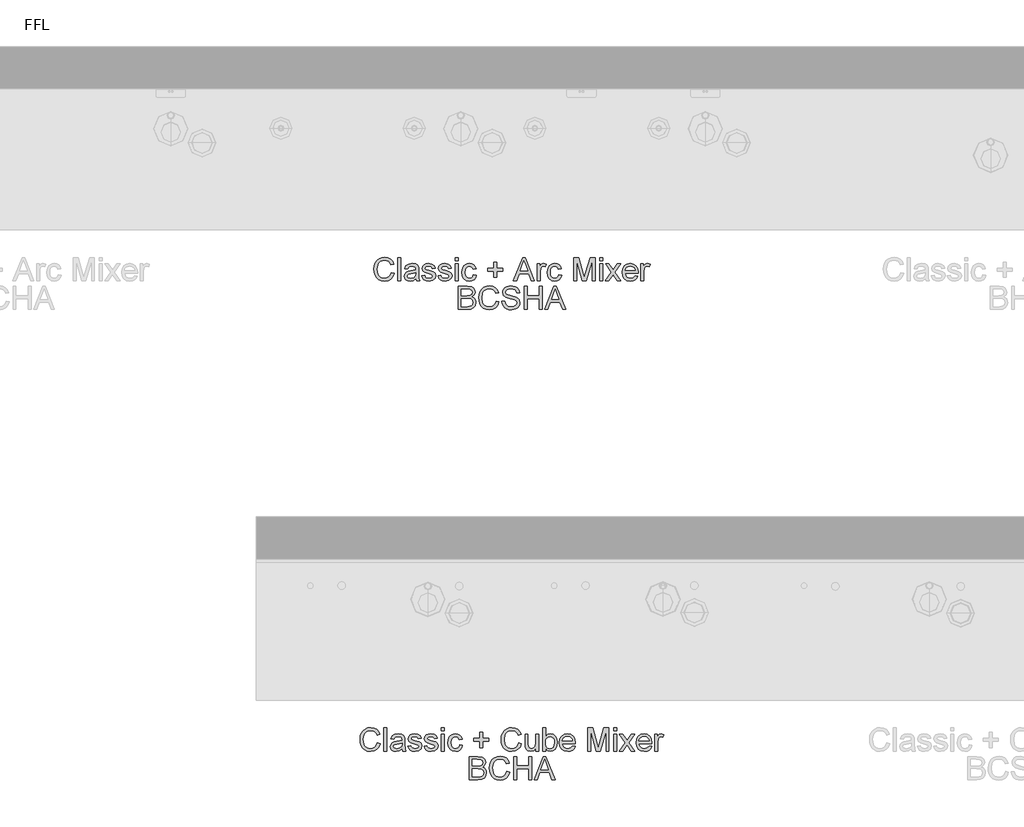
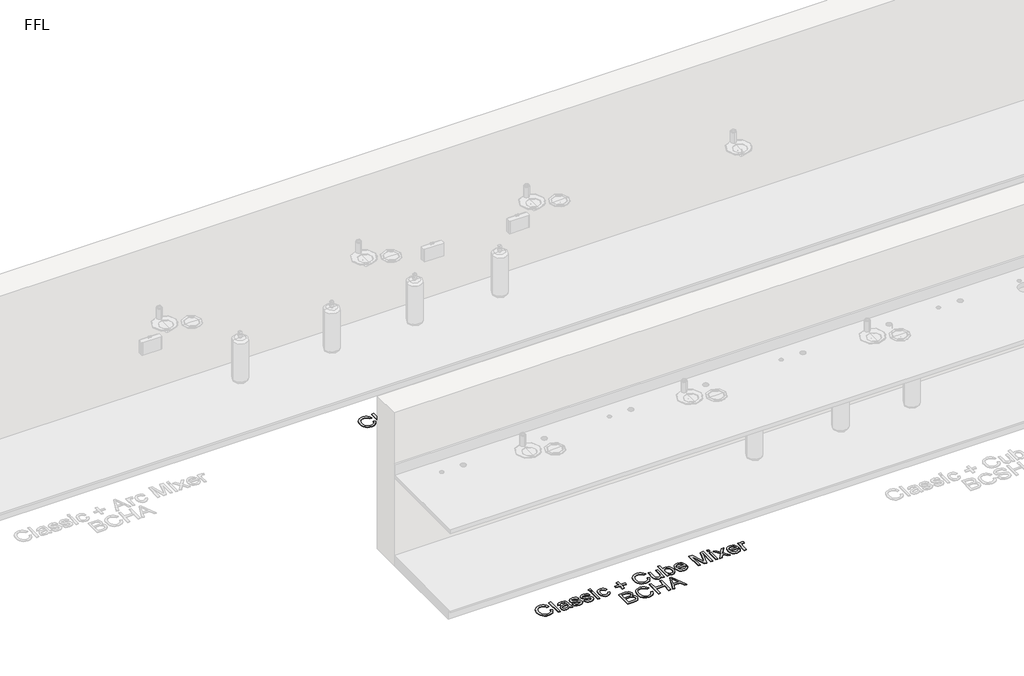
# One storey, part 6 of 13: 2 proxies.
"""IFC4 building model written with IfcOpenShell, lengths in millimetres."""

from ifc_helpers import new_model, si_unit, origin, origin_with_axes, place, context, project, spatial, polyline, outline, extrude, element, save

model = new_model("IFC4")

# Units and contexts
model_context = context("Model", 3, world=origin())
ifc_project = project(units=[si_unit("LENGTHUNIT", "METRE", prefix="MILLI")], contexts=[model_context])

# Site, building, storey
site = spatial("IfcSite", under=ifc_project)
building = spatial("IfcBuilding", under=site)
storey = spatial("IfcBuildingStorey", under=building, Name="FFL", Elevation=0.0)

# Proxies
placement = place(None, origin())
element("IfcBuildingElementProxy", 1, Name="150mm Arial", ObjectType="150mm Arial", at=placement, inside=storey, context=model_context, shape_type="SweptSolid", body=[
    extrude(outline(polyline([(-2858.580362, 3676.3018309), (-2840.1188235, 3671.5422155), (-2848.6374533, 3650.0292948), (-2862.0058427, 3634.3126482), (-2879.5659389, 3624.698766), (-2900.6596889, 3621.4941386), (-2922.0734509, 3623.9190184), (-2939.07916, 3631.1936578), (-2952.1140158, 3643.065653), (-2961.6152177, 3659.2826001), (-2967.415999, 3678.3481049), (-2969.3495927, 3698.7657732), (-2967.1635951, 3720.3012299), (-2960.6056024, 3738.8979847), (-2950.0181625, 3753.9655929), (-2935.7438235, 3764.9136097), (-2918.814737, 3771.5797756), (-2900.2630543, 3773.8018309), (-2880.0211673, 3770.9262299), (-2863.2858908, 3762.299427), (-2850.5800615, 3748.4532732), (-2842.4265158, 3729.9196193), (-2860.8880543, 3725.5205809), (-2867.2882947, 3738.9836217), (-2876.032285, 3748.2188982), (-2887.2281985, 3753.5599439), (-2900.9842081, 3755.3402924), (-2916.8405783, 3753.3661338), (-2929.8664197, 3747.4436578), (-2939.7507346, 3738.1948597), (-2946.1825254, 3726.2417347), (-2950.8880543, 3698.8018309), (-2945.3171408, 3666.9989463), (-2938.1957466, 3655.1224439), (-2927.9733908, 3646.6804367), (-2915.7182826, 3641.6368669), (-2902.4986312, 3639.955677), (-2887.088475, 3642.2453405), (-2874.2474293, 3649.1143309), (-2864.5524173, 3660.4905328), (-2858.580362, 3676.3018309)])), origin_with_axes(), (0.0, 0.0, 1.0), 5.0),
    extrude(outline(polyline([(-2817.0419004, 3623.8018309), (-2817.0419004, 3771.4941386), (-2798.580362, 3771.4941386), (-2798.580362, 3623.8018309), (-2817.0419004, 3623.8018309)])), origin_with_axes(), (0.0, 0.0, 1.0), 5.0),
    extrude(outline(polyline([(-2701.657285, 3637.6479847), (-2719.5599293, 3625.1359655), (-2739.3375735, 3621.4941386), (-2754.7657586, 3623.6846434), (-2766.1464677, 3630.2561578), (-2773.1641961, 3640.2351242), (-2775.5034389, 3652.6479847), (-2771.969785, 3667.2513501), (-2762.6849293, 3677.8523117), (-2749.7582466, 3683.910004), (-2733.7846889, 3686.6864463), (-2701.7654581, 3693.0326001), (-2701.657285, 3697.143177), (-2702.9283187, 3705.3823597), (-2706.7414197, 3710.7729847), (-2715.2690639, 3714.7753886), (-2727.1500735, 3716.1095232), (-2745.8279581, 3712.5578405), (-2754.7342081, 3699.955677), (-2773.1957466, 3702.2633693), (-2765.2089677, 3720.2922155), (-2749.127237, 3730.8571193), (-2724.7702658, 3734.5710617), (-2702.3964677, 3731.2898117), (-2689.7582466, 3723.050629), (-2684.0971889, 3710.5205809), (-2683.1957466, 3694.3667347), (-2683.1957466, 3671.3979847), (-2682.2582466, 3639.3246674), (-2678.580362, 3623.8018309), (-2697.0419004, 3623.8018309), (-2701.657285, 3637.6479847)]), holes=[polyline([(-2701.657285, 3674.5710617), (-2731.4409389, 3668.910004), (-2747.3243524, 3665.9172155), (-2754.517862, 3661.049427), (-2757.0419004, 3653.9460617), (-2751.5431024, 3643.9580809), (-2735.407285, 3639.955677), (-2716.7294004, 3644.3727443), (-2704.6861312, 3655.0638501), (-2701.7654581, 3669.3426963), (-2701.657285, 3674.5710617)])]), origin_with_axes(), (0.0, 0.0, 1.0), 5.0),
    extrude(outline(polyline([(-2664.7342081, 3656.1095232), (-2646.2726697, 3658.4172155), (-2643.361011, 3650.5205809), (-2637.7269966, 3644.7152924), (-2618.1476697, 3639.955677), (-2599.3255543, 3644.3186578), (-2593.1957466, 3654.5590424), (-2599.361612, 3662.8523117), (-2618.3640158, 3668.1167347), (-2646.1644966, 3677.1491867), (-2658.29791, 3687.6960617), (-2662.4265158, 3702.5878886), (-2659.1092081, 3716.3438982), (-2650.0587274, 3726.8547155), (-2638.3219485, 3732.3174559), (-2622.438535, 3734.5710617), (-2599.9745927, 3730.9472636), (-2585.6957466, 3721.1395713), (-2579.3495927, 3704.5710617), (-2597.8111312, 3702.2633693), (-2604.752237, 3712.4496674), (-2620.9962274, 3716.1095232), (-2638.6644966, 3712.611927), (-2643.9649774, 3704.4628886), (-2641.7654581, 3699.0902924), (-2634.8784389, 3695.0157732), (-2618.9769966, 3691.0854847), (-2591.8796408, 3682.3955809), (-2579.2955062, 3672.5518309), (-2574.7342081, 3656.5061578), (-2580.0887754, 3638.8378886), (-2595.5394966, 3626.019379), (-2618.4000735, 3621.4941386), (-2637.0148572, 3623.675629), (-2650.5995927, 3630.2201001), (-2659.6681024, 3641.0554367), (-2664.7342081, 3656.1095232)])), origin_with_axes(), (0.0, 0.0, 1.0), 5.0),
    extrude(outline(polyline([(-2560.8880543, 3656.1095232), (-2542.4265158, 3658.4172155), (-2539.5148572, 3650.5205809), (-2533.8808427, 3644.7152924), (-2514.3015158, 3639.955677), (-2495.4794004, 3644.3186578), (-2489.3495927, 3654.5590424), (-2495.5154581, 3662.8523117), (-2514.517862, 3668.1167347), (-2542.3183427, 3677.1491867), (-2554.4517562, 3687.6960617), (-2558.580362, 3702.5878886), (-2555.2630543, 3716.3438982), (-2546.2125735, 3726.8547155), (-2534.4757947, 3732.3174559), (-2518.5923812, 3734.5710617), (-2496.1284389, 3730.9472636), (-2481.8495927, 3721.1395713), (-2475.5034389, 3704.5710617), (-2493.9649774, 3702.2633693), (-2500.9060831, 3712.4496674), (-2517.1500735, 3716.1095232), (-2534.8183427, 3712.611927), (-2540.1188235, 3704.4628886), (-2537.9193043, 3699.0902924), (-2531.032285, 3695.0157732), (-2515.1308427, 3691.0854847), (-2488.033487, 3682.3955809), (-2475.4493524, 3672.5518309), (-2470.8880543, 3656.5061578), (-2476.2426216, 3638.8378886), (-2491.6933427, 3626.019379), (-2514.5539197, 3621.4941386), (-2533.1687033, 3623.675629), (-2546.7534389, 3630.2201001), (-2555.8219485, 3641.0554367), (-2560.8880543, 3656.1095232)])), origin_with_axes(), (0.0, 0.0, 1.0), 5.0),
    extrude(outline(polyline([(-2450.1188235, 3623.8018309), (-2450.1188235, 3732.2633693), (-2431.657285, 3732.2633693), (-2431.657285, 3623.8018309), (-2450.1188235, 3623.8018309)])), origin_with_axes(), (0.0, 0.0, 1.0), 5.0),
    extrude(outline(polyline([(-2450.1188235, 3753.0326001), (-2450.1188235, 3771.4941386), (-2431.657285, 3771.4941386), (-2431.657285, 3753.0326001), (-2450.1188235, 3753.0326001)])), origin_with_axes(), (0.0, 0.0, 1.0), 5.0),
    extrude(outline(polyline([(-2334.7342081, 3663.0326001), (-2316.2726697, 3660.7249078), (-2321.4199052, 3644.3051362), (-2331.0923812, 3631.8967828), (-2344.3796408, 3624.0947996), (-2360.3712274, 3621.4941386), (-2380.009148, 3625.1224439), (-2395.3652177, 3636.0073597), (-2405.2765759, 3653.6711217), (-2408.580362, 3677.6359655), (-2402.9373331, 3708.3030328), (-2395.8159389, 3719.8009294), (-2385.7378139, 3728.0085617), (-2373.681023, 3732.9304367), (-2360.6236312, 3734.5710617), (-2345.0241721, 3732.3174559), (-2332.5527177, 3725.5566386), (-2323.6059028, 3714.6491867), (-2318.580362, 3699.955677), (-2337.0419004, 3697.6479847), (-2345.6056024, 3711.4761097), (-2360.4794004, 3716.1095232), (-2372.4099894, 3713.8288742), (-2381.8796408, 3706.986927), (-2388.0590278, 3695.2140905), (-2390.1188235, 3678.1407732), (-2388.1041, 3660.8375881), (-2382.0599293, 3649.0241867), (-2372.7615519, 3642.2228044), (-2360.9842081, 3639.955677), (-2351.4244125, 3641.3709415), (-2343.5863716, 3645.6167347), (-2337.884749, 3652.8012299), (-2334.7342081, 3663.0326001)])), origin_with_axes(), (0.0, 0.0, 1.0), 5.0),
    extrude(outline(polyline([(-2205.5034389, 3646.878754), (-2205.5034389, 3686.1095232), (-2244.7342081, 3686.1095232), (-2244.7342081, 3704.5710617), (-2205.5034389, 3704.5710617), (-2205.5034389, 3743.8018309), (-2187.0419004, 3743.8018309), (-2187.0419004, 3704.5710617), (-2147.8111312, 3704.5710617), (-2147.8111312, 3686.1095232), (-2187.0419004, 3686.1095232), (-2187.0419004, 3646.878754), (-2205.5034389, 3646.878754)])), origin_with_axes(), (0.0, 0.0, 1.0), 5.0),
    extrude(outline(polyline([(-2079.626035, 3623.8018309), (-2020.6717081, 3771.4941386), (-2004.9505543, 3771.4941386), (-1945.9962274, 3623.8018309), (-1965.5034389, 3623.8018309), (-1982.4144966, 3669.955677), (-2043.2438235, 3669.955677), (-2060.1188235, 3623.8018309), (-2079.626035, 3623.8018309)]), holes=[polyline([(-2036.4649774, 3688.4172155), (-1989.157285, 3688.4172155), (-2002.4625735, 3724.7273117), (-2012.8111312, 3753.0326001), (-2022.0058427, 3727.9003886), (-2036.4649774, 3688.4172155)])]), origin_with_axes(), (0.0, 0.0, 1.0), 5.0),
    extrude(outline(polyline([(-1928.580362, 3623.8018309), (-1928.580362, 3732.2633693), (-1912.4265158, 3732.2633693), (-1912.4265158, 3716.2176963), (-1900.9601697, 3731.0013501), (-1889.4217081, 3734.5710617), (-1870.8880543, 3728.8739463), (-1877.0539197, 3712.3234655), (-1890.0346889, 3716.1095232), (-1900.4733908, 3712.4676963), (-1907.126035, 3702.3715424), (-1910.1188235, 3680.8090424), (-1910.1188235, 3623.8018309), (-1928.580362, 3623.8018309)])), origin_with_axes(), (0.0, 0.0, 1.0), 5.0),
    extrude(outline(polyline([(-1790.1188235, 3663.0326001), (-1771.657285, 3660.7249078), (-1776.8045206, 3644.3051362), (-1786.4769966, 3631.8967828), (-1799.7642562, 3624.0947996), (-1815.7558427, 3621.4941386), (-1835.3937634, 3625.1224439), (-1850.7498331, 3636.0073597), (-1860.6611913, 3653.6711217), (-1863.9649774, 3677.6359655), (-1858.3219485, 3708.3030328), (-1851.2005543, 3719.8009294), (-1841.1224293, 3728.0085617), (-1829.0656384, 3732.9304367), (-1816.0082466, 3734.5710617), (-1800.4087875, 3732.3174559), (-1787.9373331, 3725.5566386), (-1778.9905182, 3714.6491867), (-1773.9649774, 3699.955677), (-1792.4265158, 3697.6479847), (-1800.9902177, 3711.4761097), (-1815.8640158, 3716.1095232), (-1827.7946048, 3713.8288742), (-1837.2642562, 3706.986927), (-1843.4436432, 3695.2140905), (-1845.5034389, 3678.1407732), (-1843.4887153, 3660.8375881), (-1837.4445447, 3649.0241867), (-1828.1461673, 3642.2228044), (-1816.3688235, 3639.955677), (-1806.8090278, 3641.3709415), (-1798.970987, 3645.6167347), (-1793.2693644, 3652.8012299), (-1790.1188235, 3663.0326001)])), origin_with_axes(), (0.0, 0.0, 1.0), 5.0),
    extrude(outline(polyline([(-1695.5034389, 3623.8018309), (-1695.5034389, 3771.4941386), (-1663.736612, 3771.4941386), (-1633.5202658, 3667.3955809), (-1627.4265158, 3645.6527924), (-1620.8279581, 3669.1984655), (-1591.1164197, 3771.4941386), (-1559.3495927, 3771.4941386), (-1559.3495927, 3623.8018309), (-1577.8111312, 3623.8018309), (-1577.8111312, 3753.0326001), (-1614.9144966, 3623.8018309), (-1639.938535, 3623.8018309), (-1677.0419004, 3753.0326001), (-1677.0419004, 3623.8018309), (-1695.5034389, 3623.8018309)])), origin_with_axes(), (0.0, 0.0, 1.0), 5.0),
    extrude(outline(polyline([(-1529.3495927, 3753.0326001), (-1529.3495927, 3771.4941386), (-1510.8880543, 3771.4941386), (-1510.8880543, 3753.0326001), (-1529.3495927, 3753.0326001)])), origin_with_axes(), (0.0, 0.0, 1.0), 5.0),
    extrude(outline(polyline([(-1529.3495927, 3623.8018309), (-1529.3495927, 3732.2633693), (-1510.8880543, 3732.2633693), (-1510.8880543, 3623.8018309), (-1529.3495927, 3623.8018309)])), origin_with_axes(), (0.0, 0.0, 1.0), 5.0),
    extrude(outline(polyline([(-1494.7342081, 3623.8018309), (-1455.2870927, 3678.3210617), (-1492.4265158, 3732.2633693), (-1470.2149774, 3732.2633693), (-1452.2943043, 3706.3018309), (-1443.9289197, 3694.0422155), (-1436.6813235, 3704.066254), (-1416.2726697, 3732.2633693), (-1394.0611312, 3732.2633693), (-1433.0755543, 3678.3210617), (-1395.5034389, 3623.8018309), (-1417.7149774, 3623.8018309), (-1440.3231504, 3656.5782732), (-1444.469785, 3662.5638501), (-1472.5226697, 3623.8018309), (-1494.7342081, 3623.8018309)])), origin_with_axes(), (0.0, 0.0, 1.0), 5.0),
    extrude(outline(polyline([(-1303.4120927, 3656.1095232), (-1285.3111312, 3653.8018309), (-1291.8330663, 3640.1630088), (-1302.2402177, 3629.9676963), (-1316.2982105, 3623.612528), (-1333.7726697, 3621.4941386), (-1355.4343283, 3625.1494871), (-1372.1019966, 3636.1155328), (-1382.7300014, 3653.6801362), (-1386.2726697, 3677.1311578), (-1382.6939437, 3701.3709415), (-1371.9577658, 3719.4989463), (-1355.5154581, 3730.8030328), (-1334.8183427, 3734.5710617), (-1314.7657586, 3730.8120472), (-1298.7426216, 3719.535004), (-1288.2363115, 3701.4430568), (-1284.7342081, 3677.2393309), (-1284.8423812, 3672.2633693), (-1367.8111312, 3672.2633693), (-1364.6155182, 3658.4442588), (-1357.1921408, 3648.285004), (-1346.478499, 3642.0380088), (-1333.4120927, 3639.955677), (-1315.3111312, 3643.8138501), (-1303.4120927, 3656.1095232)]), holes=[polyline([(-1367.8111312, 3690.7249078), (-1303.1957466, 3690.7249078), (-1305.6927418, 3700.4785136), (-1310.5875735, 3707.455677), (-1321.3507947, 3713.9460617), (-1334.8904581, 3716.1095232), (-1347.3348692, 3714.3832612), (-1357.6248331, 3709.2044751), (-1364.7777778, 3701.1320592), (-1367.8111312, 3690.7249078)])]), origin_with_axes(), (0.0, 0.0, 1.0), 5.0),
    extrude(outline(polyline([(-1266.2726697, 3623.8018309), (-1266.2726697, 3732.2633693), (-1250.1188235, 3732.2633693), (-1250.1188235, 3716.2176963), (-1238.6524774, 3731.0013501), (-1227.1140158, 3734.5710617), (-1208.580362, 3728.8739463), (-1214.7462274, 3712.3234655), (-1227.7269966, 3716.1095232), (-1238.1656985, 3712.4676963), (-1244.8183427, 3702.3715424), (-1247.8111312, 3680.8090424), (-1247.8111312, 3623.8018309), (-1266.2726697, 3623.8018309)])), origin_with_axes(), (0.0, 0.0, 1.0), 5.0),
    extrude(outline(polyline([(-2430.5034389, 3441.4941386), (-2430.5034389, 3589.1864463), (-2374.1452658, 3589.1864463), (-2346.5431024, 3584.8414943), (-2337.267261, 3579.3291746), (-2330.2450254, 3571.4821193), (-2324.3495927, 3552.5878886), (-2329.3075254, 3535.3342828), (-2344.2894966, 3522.2633693), (-2333.8282586, 3516.800629), (-2326.0983908, 3508.4893309), (-2321.3252538, 3497.8793549), (-2319.7342081, 3485.5205809), (-2324.07916, 3465.6708213), (-2334.8423812, 3451.5362059), (-2350.9060831, 3444.0362059), (-2374.5779581, 3441.4941386), (-2430.5034389, 3441.4941386)]), holes=[polyline([(-2412.0419004, 3529.1864463), (-2378.3279581, 3529.1864463), (-2358.6404581, 3530.7729847), (-2346.7955062, 3537.6059174), (-2342.8111312, 3549.6311578), (-2346.5250735, 3561.674427), (-2357.1620927, 3568.7958213), (-2380.8880543, 3570.7249078), (-2412.0419004, 3570.7249078), (-2412.0419004, 3529.1864463)]), polyline([(-2412.0419004, 3459.955677), (-2374.1813235, 3459.955677), (-2360.4794004, 3460.6768309), (-2348.8868524, 3464.6972636), (-2341.2065639, 3472.9003886), (-2338.1957466, 3485.3402924), (-2341.7294004, 3499.691254), (-2353.1777177, 3508.2549559), (-2375.9842081, 3510.7249078), (-2412.0419004, 3510.7249078), (-2412.0419004, 3459.955677)])]), origin_with_axes(), (0.0, 0.0, 1.0), 5.0),
    extrude(outline(polyline([(-2190.5034389, 3493.9941386), (-2172.0419004, 3489.2345232), (-2180.5605302, 3467.7216025), (-2193.9289197, 3452.0049559), (-2211.4890158, 3442.3910737), (-2232.5827658, 3439.1864463), (-2253.9965278, 3441.6113261), (-2271.002237, 3448.8859655), (-2284.0370927, 3460.7579607), (-2293.5382947, 3476.9749078), (-2299.3390759, 3496.0404126), (-2301.2726697, 3516.4580809), (-2299.0866721, 3537.9935376), (-2292.5286793, 3556.5902924), (-2281.9412394, 3571.6579006), (-2267.6669004, 3582.6059174), (-2250.7378139, 3589.2720833), (-2232.1861312, 3591.4941386), (-2211.9442442, 3588.6185376), (-2195.2089677, 3579.9917347), (-2182.5031384, 3566.1455809), (-2174.3495927, 3547.611927), (-2192.8111312, 3543.2128886), (-2199.2113716, 3556.6759294), (-2207.955362, 3565.9112059), (-2219.1512754, 3571.2522516), (-2232.907285, 3573.0326001), (-2248.7636552, 3571.0584415), (-2261.7894966, 3565.1359655), (-2271.6738115, 3555.8871674), (-2278.1056024, 3543.9340424), (-2282.8111312, 3516.4941386), (-2277.2402177, 3484.691254), (-2270.1188235, 3472.8147516), (-2259.8964677, 3464.3727443), (-2247.6413596, 3459.3291746), (-2234.4217081, 3457.6479847), (-2219.0115519, 3459.9376482), (-2206.1705062, 3466.8066386), (-2196.4754942, 3478.1828405), (-2190.5034389, 3493.9941386)])), origin_with_axes(), (0.0, 0.0, 1.0), 5.0),
    extrude(outline(polyline([(-2153.580362, 3492.2633693), (-2135.1188235, 3492.2633693), (-2129.1693043, 3473.783802), (-2114.6380543, 3462.1011097), (-2092.4986312, 3457.6479847), (-2073.2077658, 3461.019379), (-2060.7498331, 3470.2862059), (-2056.657285, 3482.6720232), (-2059.7221889, 3494.1924559), (-2072.2702658, 3502.5758693), (-2099.1512754, 3509.6251482), (-2128.0875735, 3518.7297155), (-2143.7906985, 3532.4676963), (-2148.9649774, 3550.8210617), (-2147.3649173, 3561.6338621), (-2142.564737, 3571.7164943), (-2134.6906384, 3580.2621674), (-2123.8688235, 3586.4640905), (-2096.501035, 3591.4941386), (-2067.2943043, 3586.2297155), (-2056.0983908, 3579.7303165), (-2047.8231504, 3570.7609655), (-2042.5857706, 3559.8805568), (-2040.5034389, 3547.6479847), (-2058.9649774, 3547.6479847), (-2062.3544004, 3558.6636097), (-2069.4217081, 3566.6143309), (-2080.4643764, 3571.4280328), (-2095.7798812, 3573.0326001), (-2111.4559629, 3571.4460617), (-2122.2101697, 3566.6864463), (-2128.4301216, 3559.6822395), (-2130.5034389, 3551.361927), (-2129.0340879, 3544.2675761), (-2124.626035, 3538.5614463), (-2094.4818043, 3528.2489463), (-2061.813535, 3518.9821193), (-2051.2891961, 3512.284403), (-2043.9469485, 3504.018177), (-2038.1957466, 3483.1407732), (-2039.8498932, 3471.7600641), (-2044.8123331, 3461.0554367), (-2052.8802418, 3451.8426963), (-2063.8507947, 3444.9376482), (-2091.7774774, 3439.1864463), (-2109.8649173, 3440.736927), (-2124.752237, 3445.3883693), (-2136.6107105, 3453.158802), (-2145.611612, 3464.066254), (-2151.3898572, 3477.3535136), (-2153.580362, 3492.2633693)])), origin_with_axes(), (0.0, 0.0, 1.0), 5.0),
    extrude(outline(polyline([(-2010.5034389, 3441.4941386), (-2010.5034389, 3589.1864463), (-1992.0419004, 3589.1864463), (-1992.0419004, 3529.1864463), (-1913.580362, 3529.1864463), (-1913.580362, 3589.1864463), (-1895.1188235, 3589.1864463), (-1895.1188235, 3441.4941386), (-1913.580362, 3441.4941386), (-1913.580362, 3510.7249078), (-1992.0419004, 3510.7249078), (-1992.0419004, 3441.4941386), (-2010.5034389, 3441.4941386)])), origin_with_axes(), (0.0, 0.0, 1.0), 5.0),
    extrude(outline(polyline([(-1880.0106504, 3441.4941386), (-1821.0563235, 3589.1864463), (-1805.3351697, 3589.1864463), (-1746.3808427, 3441.4941386), (-1765.8880543, 3441.4941386), (-1782.799112, 3487.6479847), (-1843.6284389, 3487.6479847), (-1860.5034389, 3441.4941386), (-1880.0106504, 3441.4941386)]), holes=[polyline([(-1836.8495927, 3506.1095232), (-1789.5419004, 3506.1095232), (-1802.8471889, 3542.4196193), (-1813.1957466, 3570.7249078), (-1822.3904581, 3545.5926963), (-1836.8495927, 3506.1095232)])]), origin_with_axes(), (0.0, 0.0, 1.0), 5.0),
])
element("IfcBuildingElementProxy", 2, Name="150mm Arial", ObjectType="150mm Arial", at=placement, inside=storey, context=model_context, shape_type="SweptSolid", body=[
    extrude(outline(polyline([(-2947.4276006, 676.3018309), (-2928.9660621, 671.5422155), (-2937.4846919, 650.0292948), (-2950.8530813, 634.3126482), (-2968.4131775, 624.698766), (-2989.5069275, 621.4941386), (-3010.9206895, 623.9190184), (-3027.9263986, 631.1936578), (-3040.9612544, 643.065653), (-3050.4624563, 659.2826001), (-3056.2632376, 678.3481049), (-3058.1968313, 698.7657732), (-3056.0108337, 720.3012299), (-3049.4528409, 738.8979847), (-3038.865401, 753.9655929), (-3024.5910621, 764.9136097), (-3007.6619756, 771.5797756), (-2989.1102929, 773.8018309), (-2968.8684059, 770.9262299), (-2952.1331294, 762.299427), (-2939.4273001, 748.4532732), (-2931.2737544, 729.9196193), (-2949.7352929, 725.5205809), (-2956.1355333, 738.9836217), (-2964.8795236, 748.2188982), (-2976.0754371, 753.5599439), (-2989.8314467, 755.3402924), (-3005.6878169, 753.3661338), (-3018.7136583, 747.4436578), (-3028.5979732, 738.1948597), (-3035.029764, 726.2417347), (-3039.7352929, 698.8018309), (-3034.1643794, 666.9989463), (-3027.0429852, 655.1224439), (-3016.8206294, 646.6804367), (-3004.5655212, 641.6368669), (-2991.3458698, 639.955677), (-2975.9357135, 642.2453405), (-2963.0946679, 649.1143309), (-2953.3996559, 660.4905328), (-2947.4276006, 676.3018309)])), origin_with_axes(), (0.0, 0.0, 1.0), 5.0),
    extrude(outline(polyline([(-2905.889139, 623.8018309), (-2905.889139, 771.4941386), (-2887.4276006, 771.4941386), (-2887.4276006, 623.8018309), (-2905.889139, 623.8018309)])), origin_with_axes(), (0.0, 0.0, 1.0), 5.0),
    extrude(outline(polyline([(-2790.5045236, 637.6479847), (-2808.4071679, 625.1359655), (-2828.1848121, 621.4941386), (-2843.6129972, 623.6846434), (-2854.9937063, 630.2561578), (-2862.0114347, 640.2351242), (-2864.3506775, 652.6479847), (-2860.8170236, 667.2513501), (-2851.5321679, 677.8523117), (-2838.6054852, 683.910004), (-2822.6319275, 686.6864463), (-2790.6126967, 693.0326001), (-2790.5045236, 697.143177), (-2791.7755573, 705.3823597), (-2795.5886583, 710.7729847), (-2804.1163025, 714.7753886), (-2815.9973121, 716.1095232), (-2834.6751967, 712.5578405), (-2843.5814467, 699.955677), (-2862.0429852, 702.2633693), (-2854.0562063, 720.2922155), (-2837.9744756, 730.8571193), (-2813.6175044, 734.5710617), (-2791.2437063, 731.2898117), (-2778.6054852, 723.050629), (-2772.9444275, 710.5205809), (-2772.0429852, 694.3667347), (-2772.0429852, 671.3979847), (-2771.1054852, 639.3246674), (-2767.4276006, 623.8018309), (-2785.889139, 623.8018309), (-2790.5045236, 637.6479847)]), holes=[polyline([(-2790.5045236, 674.5710617), (-2820.2881775, 668.910004), (-2836.1715909, 665.9172155), (-2843.3651006, 661.049427), (-2845.889139, 653.9460617), (-2840.3903409, 643.9580809), (-2824.2545236, 639.955677), (-2805.576639, 644.3727443), (-2793.5333698, 655.0638501), (-2790.6126967, 669.3426963), (-2790.5045236, 674.5710617)])]), origin_with_axes(), (0.0, 0.0, 1.0), 5.0),
    extrude(outline(polyline([(-2753.5814467, 656.1095232), (-2735.1199083, 658.4172155), (-2732.2082496, 650.5205809), (-2726.5742352, 644.7152924), (-2706.9949083, 639.955677), (-2688.1727929, 644.3186578), (-2682.0429852, 654.5590424), (-2688.2088506, 662.8523117), (-2707.2112544, 668.1167347), (-2735.0117352, 677.1491867), (-2747.1451486, 687.6960617), (-2751.2737544, 702.5878886), (-2747.9564467, 716.3438982), (-2738.9059659, 726.8547155), (-2727.1691871, 732.3174559), (-2711.2857736, 734.5710617), (-2688.8218313, 730.9472636), (-2674.5429852, 721.1395713), (-2668.1968313, 704.5710617), (-2686.6583698, 702.2633693), (-2693.5994756, 712.4496674), (-2709.8434659, 716.1095232), (-2727.5117352, 712.611927), (-2732.8122159, 704.4628886), (-2730.6126967, 699.0902924), (-2723.7256775, 695.0157732), (-2707.8242352, 691.0854847), (-2680.7268794, 682.3955809), (-2668.1427448, 672.5518309), (-2663.5814467, 656.5061578), (-2668.936014, 638.8378886), (-2684.3867352, 626.019379), (-2707.2473121, 621.4941386), (-2725.8620958, 623.675629), (-2739.4468313, 630.2201001), (-2748.5153409, 641.0554367), (-2753.5814467, 656.1095232)])), origin_with_axes(), (0.0, 0.0, 1.0), 5.0),
    extrude(outline(polyline([(-2649.7352929, 656.1095232), (-2631.2737544, 658.4172155), (-2628.3620958, 650.5205809), (-2622.7280813, 644.7152924), (-2603.1487544, 639.955677), (-2584.326639, 644.3186578), (-2578.1968313, 654.5590424), (-2584.3626967, 662.8523117), (-2603.3651006, 668.1167347), (-2631.1655813, 677.1491867), (-2643.2989948, 687.6960617), (-2647.4276006, 702.5878886), (-2644.1102929, 716.3438982), (-2635.0598121, 726.8547155), (-2623.3230333, 732.3174559), (-2607.4396198, 734.5710617), (-2584.9756775, 730.9472636), (-2570.6968313, 721.1395713), (-2564.3506775, 704.5710617), (-2582.8122159, 702.2633693), (-2589.7533217, 712.4496674), (-2605.9973121, 716.1095232), (-2623.6655813, 712.611927), (-2628.9660621, 704.4628886), (-2626.7665429, 699.0902924), (-2619.8795236, 695.0157732), (-2603.9780813, 691.0854847), (-2576.8807256, 682.3955809), (-2564.2965909, 672.5518309), (-2559.7352929, 656.5061578), (-2565.0898602, 638.8378886), (-2580.5405813, 626.019379), (-2603.4011583, 621.4941386), (-2622.0159419, 623.675629), (-2635.6006775, 630.2201001), (-2644.6691871, 641.0554367), (-2649.7352929, 656.1095232)])), origin_with_axes(), (0.0, 0.0, 1.0), 5.0),
    extrude(outline(polyline([(-2538.9660621, 623.8018309), (-2538.9660621, 732.2633693), (-2520.5045236, 732.2633693), (-2520.5045236, 623.8018309), (-2538.9660621, 623.8018309)])), origin_with_axes(), (0.0, 0.0, 1.0), 5.0),
    extrude(outline(polyline([(-2538.9660621, 753.0326001), (-2538.9660621, 771.4941386), (-2520.5045236, 771.4941386), (-2520.5045236, 753.0326001), (-2538.9660621, 753.0326001)])), origin_with_axes(), (0.0, 0.0, 1.0), 5.0),
    extrude(outline(polyline([(-2423.5814467, 663.0326001), (-2405.1199083, 660.7249078), (-2410.2671438, 644.3051362), (-2419.9396198, 631.8967828), (-2433.2268794, 624.0947996), (-2449.2184659, 621.4941386), (-2468.8563866, 625.1224439), (-2484.2124563, 636.0073597), (-2494.1238145, 653.6711217), (-2497.4276006, 677.6359655), (-2491.7845717, 708.3030328), (-2484.6631775, 719.8009294), (-2474.5850525, 728.0085617), (-2462.5282616, 732.9304367), (-2449.4708698, 734.5710617), (-2433.8714107, 732.3174559), (-2421.3999563, 725.5566386), (-2412.4531414, 714.6491867), (-2407.4276006, 699.955677), (-2425.889139, 697.6479847), (-2434.4528409, 711.4761097), (-2449.326639, 716.1095232), (-2461.257228, 713.8288742), (-2470.7268794, 706.986927), (-2476.9062664, 695.2140905), (-2478.9660621, 678.1407732), (-2476.9513385, 660.8375881), (-2470.9071679, 649.0241867), (-2461.6087905, 642.2228044), (-2449.8314467, 639.955677), (-2440.271651, 641.3709415), (-2432.4336102, 645.6167347), (-2426.7319876, 652.8012299), (-2423.5814467, 663.0326001)])), origin_with_axes(), (0.0, 0.0, 1.0), 5.0),
    extrude(outline(polyline([(-2294.3506775, 646.878754), (-2294.3506775, 686.1095232), (-2333.5814467, 686.1095232), (-2333.5814467, 704.5710617), (-2294.3506775, 704.5710617), (-2294.3506775, 743.8018309), (-2275.889139, 743.8018309), (-2275.889139, 704.5710617), (-2236.6583698, 704.5710617), (-2236.6583698, 686.1095232), (-2275.889139, 686.1095232), (-2275.889139, 646.878754), (-2294.3506775, 646.878754)])), origin_with_axes(), (0.0, 0.0, 1.0), 5.0),
    extrude(outline(polyline([(-2047.4276006, 676.3018309), (-2028.9660621, 671.5422155), (-2037.4846919, 650.0292948), (-2050.8530813, 634.3126482), (-2068.4131775, 624.698766), (-2089.5069275, 621.4941386), (-2110.9206895, 623.9190184), (-2127.9263986, 631.1936578), (-2140.9612544, 643.065653), (-2150.4624563, 659.2826001), (-2156.2632376, 678.3481049), (-2158.1968313, 698.7657732), (-2156.0108337, 720.3012299), (-2149.4528409, 738.8979847), (-2138.865401, 753.9655929), (-2124.5910621, 764.9136097), (-2107.6619756, 771.5797756), (-2089.1102929, 773.8018309), (-2068.8684059, 770.9262299), (-2052.1331294, 762.299427), (-2039.4273001, 748.4532732), (-2031.2737544, 729.9196193), (-2049.7352929, 725.5205809), (-2056.1355333, 738.9836217), (-2064.8795236, 748.2188982), (-2076.0754371, 753.5599439), (-2089.8314467, 755.3402924), (-2105.6878169, 753.3661338), (-2118.7136583, 747.4436578), (-2128.5979732, 738.1948597), (-2135.029764, 726.2417347), (-2139.7352929, 698.8018309), (-2134.1643794, 666.9989463), (-2127.0429852, 655.1224439), (-2116.8206294, 646.6804367), (-2104.5655212, 641.6368669), (-2091.3458698, 639.955677), (-2075.9357135, 642.2453405), (-2063.0946679, 649.1143309), (-2053.3996559, 660.4905328), (-2047.4276006, 676.3018309)])), origin_with_axes(), (0.0, 0.0, 1.0), 5.0),
    extrude(outline(polyline([(-1936.6583698, 623.8018309), (-1936.6583698, 642.4436578), (-1951.1175044, 626.7315184), (-1969.9756775, 621.4941386), (-1987.3374563, 625.1720232), (-1999.3086102, 634.4027924), (-2004.8074083, 647.9965424), (-2005.889139, 665.160004), (-2005.889139, 732.2633693), (-1987.4276006, 732.2633693), (-1987.4276006, 673.8499078), (-1986.3098121, 655.0277924), (-1979.0081294, 643.9761097), (-1965.2521198, 639.955677), (-1949.8374563, 644.066254), (-1939.6511583, 655.2621674), (-1936.6583698, 675.8330809), (-1936.6583698, 732.2633693), (-1918.1968313, 732.2633693), (-1918.1968313, 623.8018309), (-1936.6583698, 623.8018309)])), origin_with_axes(), (0.0, 0.0, 1.0), 5.0),
    extrude(outline(polyline([(-1874.3506775, 623.8018309), (-1892.8122159, 623.8018309), (-1892.8122159, 771.4941386), (-1874.3506775, 771.4941386), (-1874.3506775, 716.722504), (-1861.4239948, 730.1089222), (-1845.3602929, 734.5710617), (-1826.8626967, 730.550629), (-1812.5117352, 719.2465424), (-1803.6956294, 701.6684174), (-1800.5045236, 679.6551963), (-1803.8083097, 655.0097636), (-1813.7196679, 636.674427), (-1828.2644395, 625.2892107), (-1845.4684659, 621.4941386), (-1861.8837304, 626.3889703), (-1874.3506775, 641.0734655), (-1874.3506775, 623.8018309)]), holes=[polyline([(-1874.3506775, 678.7898117), (-1873.0886583, 663.393177), (-1869.3026006, 652.972504), (-1859.6301246, 643.2098838), (-1847.0550044, 639.955677), (-1836.3999563, 642.3535136), (-1827.295389, 649.5470232), (-1821.0483938, 661.4911338), (-1818.9660621, 678.1407732), (-1820.9627568, 695.033802), (-1826.9528409, 706.8426963), (-1835.7734539, 713.7928165), (-1846.2617352, 716.1095232), (-1856.9167833, 713.7116867), (-1866.0213506, 706.518177), (-1872.2683458, 694.7904126), (-1874.3506775, 678.7898117)])]), origin_with_axes(), (0.0, 0.0, 1.0), 5.0),
    extrude(outline(polyline([(-1703.7977929, 656.1095232), (-1685.6968313, 653.8018309), (-1692.2187664, 640.1630088), (-1702.6259179, 629.9676963), (-1716.6839107, 623.612528), (-1734.1583698, 621.4941386), (-1755.8200284, 625.1494871), (-1772.4876967, 636.1155328), (-1783.1157015, 653.6801362), (-1786.6583698, 677.1311578), (-1783.0796438, 701.3709415), (-1772.3434659, 719.4989463), (-1755.9011583, 730.8030328), (-1735.2040429, 734.5710617), (-1715.1514587, 730.8120472), (-1699.1283217, 719.535004), (-1688.6220116, 701.4430568), (-1685.1199083, 677.2393309), (-1685.2280813, 672.2633693), (-1768.1968313, 672.2633693), (-1765.0012184, 658.4442588), (-1757.5778409, 648.285004), (-1746.8641991, 642.0380088), (-1733.7977929, 639.955677), (-1715.6968313, 643.8138501), (-1703.7977929, 656.1095232)]), holes=[polyline([(-1768.1968313, 690.7249078), (-1703.5814467, 690.7249078), (-1706.0784419, 700.4785136), (-1710.9732736, 707.455677), (-1721.7364948, 713.9460617), (-1735.2761583, 716.1095232), (-1747.7205693, 714.3832612), (-1758.0105333, 709.2044751), (-1765.163478, 701.1320592), (-1768.1968313, 690.7249078)])]), origin_with_axes(), (0.0, 0.0, 1.0), 5.0),
    extrude(outline(polyline([(-1606.6583698, 623.8018309), (-1606.6583698, 771.4941386), (-1574.8915429, 771.4941386), (-1544.6751967, 667.3955809), (-1538.5814467, 645.6527924), (-1531.982889, 669.1984655), (-1502.2713506, 771.4941386), (-1470.5045236, 771.4941386), (-1470.5045236, 623.8018309), (-1488.9660621, 623.8018309), (-1488.9660621, 753.0326001), (-1526.0694275, 623.8018309), (-1551.0934659, 623.8018309), (-1588.1968313, 753.0326001), (-1588.1968313, 623.8018309), (-1606.6583698, 623.8018309)])), origin_with_axes(), (0.0, 0.0, 1.0), 5.0),
    extrude(outline(polyline([(-1440.5045236, 623.8018309), (-1440.5045236, 732.2633693), (-1422.0429852, 732.2633693), (-1422.0429852, 623.8018309), (-1440.5045236, 623.8018309)])), origin_with_axes(), (0.0, 0.0, 1.0), 5.0),
    extrude(outline(polyline([(-1440.5045236, 753.0326001), (-1440.5045236, 771.4941386), (-1422.0429852, 771.4941386), (-1422.0429852, 753.0326001), (-1440.5045236, 753.0326001)])), origin_with_axes(), (0.0, 0.0, 1.0), 5.0),
    extrude(outline(polyline([(-1405.889139, 623.8018309), (-1366.4420236, 678.3210617), (-1403.5814467, 732.2633693), (-1381.3699083, 732.2633693), (-1363.4492352, 706.3018309), (-1355.0838506, 694.0422155), (-1347.8362544, 704.066254), (-1327.4276006, 732.2633693), (-1305.2160621, 732.2633693), (-1344.2304852, 678.3210617), (-1306.6583698, 623.8018309), (-1328.8699083, 623.8018309), (-1351.4780813, 656.5782732), (-1355.6247159, 662.5638501), (-1383.6776006, 623.8018309), (-1405.889139, 623.8018309)])), origin_with_axes(), (0.0, 0.0, 1.0), 5.0),
    extrude(outline(polyline([(-1214.5670236, 656.1095232), (-1196.4660621, 653.8018309), (-1202.9879972, 640.1630088), (-1213.3951486, 629.9676963), (-1227.4531414, 623.612528), (-1244.9276006, 621.4941386), (-1266.5892592, 625.1494871), (-1283.2569275, 636.1155328), (-1293.8849323, 653.6801362), (-1297.4276006, 677.1311578), (-1293.8488746, 701.3709415), (-1283.1126967, 719.4989463), (-1266.670389, 730.8030328), (-1245.9732736, 734.5710617), (-1225.9206895, 730.8120472), (-1209.8975525, 719.535004), (-1199.3912424, 701.4430568), (-1195.889139, 677.2393309), (-1195.9973121, 672.2633693), (-1278.9660621, 672.2633693), (-1275.7704491, 658.4442588), (-1268.3470717, 648.285004), (-1257.6334299, 642.0380088), (-1244.5670236, 639.955677), (-1226.4660621, 643.8138501), (-1214.5670236, 656.1095232)]), holes=[polyline([(-1278.9660621, 690.7249078), (-1214.3506775, 690.7249078), (-1216.8476727, 700.4785136), (-1221.7425044, 707.455677), (-1232.5057256, 713.9460617), (-1246.045389, 716.1095232), (-1258.4898001, 714.3832612), (-1268.779764, 709.2044751), (-1275.9327087, 701.1320592), (-1278.9660621, 690.7249078)])]), origin_with_axes(), (0.0, 0.0, 1.0), 5.0),
    extrude(outline(polyline([(-1177.4276006, 623.8018309), (-1177.4276006, 732.2633693), (-1161.2737544, 732.2633693), (-1161.2737544, 716.2176963), (-1149.8074083, 731.0013501), (-1138.2689467, 734.5710617), (-1119.7352929, 728.8739463), (-1125.9011583, 712.3234655), (-1138.8819275, 716.1095232), (-1149.3206294, 712.4676963), (-1155.9732736, 702.3715424), (-1158.9660621, 680.8090424), (-1158.9660621, 623.8018309), (-1177.4276006, 623.8018309)])), origin_with_axes(), (0.0, 0.0, 1.0), 5.0),
    extrude(outline(polyline([(-2362.4276006, 441.4941386), (-2362.4276006, 589.1864463), (-2306.0694275, 589.1864463), (-2278.467264, 584.8414943), (-2269.1914227, 579.3291746), (-2262.1691871, 571.4821193), (-2256.2737544, 552.5878886), (-2261.2316871, 535.3342828), (-2276.2136583, 522.2633693), (-2265.7524203, 516.800629), (-2258.0225525, 508.4893309), (-2253.2494155, 497.8793549), (-2251.6583698, 485.5205809), (-2256.0033217, 465.6708213), (-2266.7665429, 451.5362059), (-2282.8302448, 444.0362059), (-2306.5021198, 441.4941386), (-2362.4276006, 441.4941386)]), holes=[polyline([(-2343.9660621, 529.1864463), (-2310.2521198, 529.1864463), (-2290.5646198, 530.7729847), (-2278.7196679, 537.6059174), (-2274.7352929, 549.6311578), (-2278.4492352, 561.674427), (-2289.0862544, 568.7958213), (-2312.8122159, 570.7249078), (-2343.9660621, 570.7249078), (-2343.9660621, 529.1864463)]), polyline([(-2343.9660621, 459.955677), (-2306.1054852, 459.955677), (-2292.4035621, 460.6768309), (-2280.811014, 464.6972636), (-2273.1307256, 472.9003886), (-2270.1199083, 485.3402924), (-2273.6535621, 499.691254), (-2285.1018794, 508.2549559), (-2307.9083698, 510.7249078), (-2343.9660621, 510.7249078), (-2343.9660621, 459.955677)])]), origin_with_axes(), (0.0, 0.0, 1.0), 5.0),
    extrude(outline(polyline([(-2122.4276006, 493.9941386), (-2103.9660621, 489.2345232), (-2112.4846919, 467.7216025), (-2125.8530813, 452.0049559), (-2143.4131775, 442.3910737), (-2164.5069275, 439.1864463), (-2185.9206895, 441.6113261), (-2202.9263986, 448.8859655), (-2215.9612544, 460.7579607), (-2225.4624563, 476.9749078), (-2231.2632376, 496.0404126), (-2233.1968313, 516.4580809), (-2231.0108337, 537.9935376), (-2224.4528409, 556.5902924), (-2213.865401, 571.6579006), (-2199.5910621, 582.6059174), (-2182.6619756, 589.2720833), (-2164.1102929, 591.4941386), (-2143.8684059, 588.6185376), (-2127.1331294, 579.9917347), (-2114.4273001, 566.1455809), (-2106.2737544, 547.611927), (-2124.7352929, 543.2128886), (-2131.1355333, 556.6759294), (-2139.8795236, 565.9112059), (-2151.0754371, 571.2522516), (-2164.8314467, 573.0326001), (-2180.6878169, 571.0584415), (-2193.7136583, 565.1359655), (-2203.5979732, 555.8871674), (-2210.029764, 543.9340424), (-2214.7352929, 516.4941386), (-2209.1643794, 484.691254), (-2202.0429852, 472.8147516), (-2191.8206294, 464.3727443), (-2179.5655212, 459.3291746), (-2166.3458698, 457.6479847), (-2150.9357135, 459.9376482), (-2138.0946679, 466.8066386), (-2128.3996559, 478.1828405), (-2122.4276006, 493.9941386)])), origin_with_axes(), (0.0, 0.0, 1.0), 5.0),
    extrude(outline(polyline([(-2078.5814467, 441.4941386), (-2078.5814467, 589.1864463), (-2060.1199083, 589.1864463), (-2060.1199083, 529.1864463), (-1981.6583698, 529.1864463), (-1981.6583698, 589.1864463), (-1963.1968313, 589.1864463), (-1963.1968313, 441.4941386), (-1981.6583698, 441.4941386), (-1981.6583698, 510.7249078), (-2060.1199083, 510.7249078), (-2060.1199083, 441.4941386), (-2078.5814467, 441.4941386)])), origin_with_axes(), (0.0, 0.0, 1.0), 5.0),
    extrude(outline(polyline([(-1948.0886583, 441.4941386), (-1889.1343313, 589.1864463), (-1873.4131775, 589.1864463), (-1814.4588506, 441.4941386), (-1833.9660621, 441.4941386), (-1850.8771198, 487.6479847), (-1911.7064467, 487.6479847), (-1928.5814467, 441.4941386), (-1948.0886583, 441.4941386)]), holes=[polyline([(-1904.9276006, 506.1095232), (-1857.6199083, 506.1095232), (-1870.9251967, 542.4196193), (-1881.2737544, 570.7249078), (-1890.4684659, 545.5926963), (-1904.9276006, 506.1095232)])]), origin_with_axes(), (0.0, 0.0, 1.0), 5.0),
])

save(model, "model.ifc")
